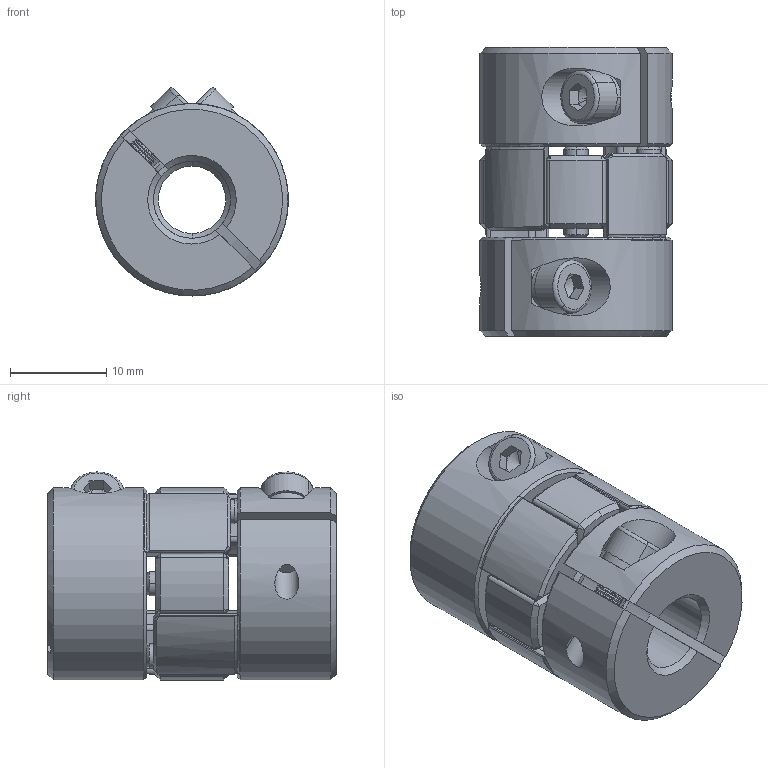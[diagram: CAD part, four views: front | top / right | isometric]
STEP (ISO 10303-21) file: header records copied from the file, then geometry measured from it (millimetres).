
FILE_DESCRIPTION (( 'STEP AP203' ), '1' );
FILE_NAME ('LF-B-D20L30-8-8.STEP', '2021-10-27T02:55:09', ( '' ), ( '' ), 'SwSTEP 2.0', 'SolidWorks 2018', '' );
FILE_SCHEMA (( 'CONFIG_CONTROL_DESIGN' ));
Length unit declared in the file: millimetre
Products named in the file (1): LF-B-D20L30-8-8
Bounding box: 20 x 30 x 21.62 mm (x, y, z)
Volume: 7318.4 mm3; surface area: 4859.2 mm2
Topology: 1 solids, 1 shells, 518 faces, 1253 edges, 691 vertices
Faces by surface type: cone 252, cylinder 192, plane 62, torus 12
Entity records: 15022 total; most frequent: CARTESIAN_POINT 2902, DIRECTION 2742, ORIENTED_EDGE 2426, EDGE_CURVE 1213, AXIS2_PLACEMENT_3D 1107, VERTEX_POINT 691, CIRCLE 588, EDGE_LOOP 546
